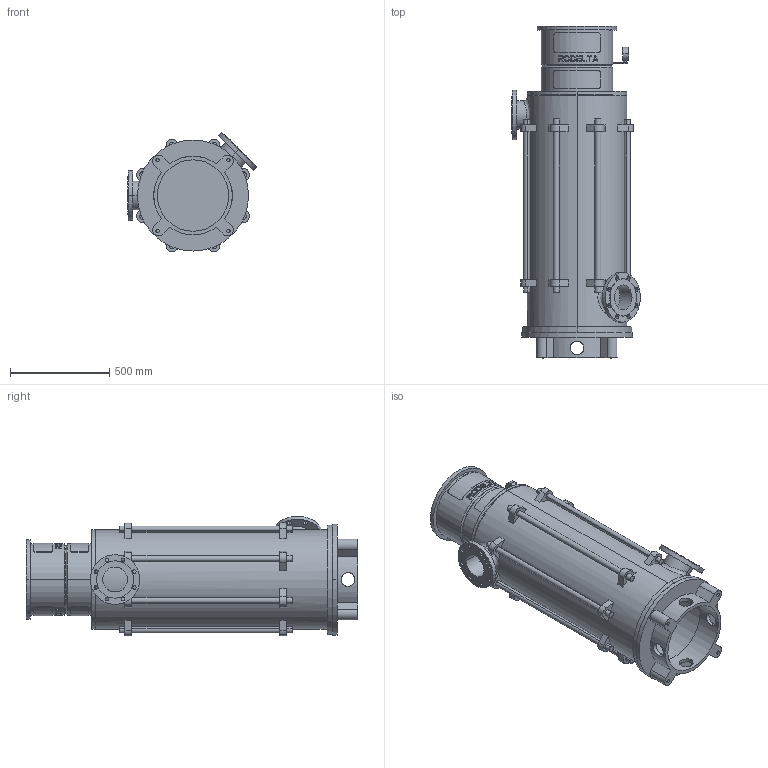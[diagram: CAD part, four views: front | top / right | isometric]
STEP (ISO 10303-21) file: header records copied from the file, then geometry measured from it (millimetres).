
FILE_DESCRIPTION((''),'2;1');
FILE_NAME('LS5_7TR_0GR_TOT_30KW','2023-08-08T',('Lyritlocal'),(''),'PRO/ENGINEER BY PARAMETRIC TECHNOLOGY CORPORATION, 2016360','PRO/ENGINEER BY PARAMETRIC TECHNOLOGY CORPORATION, 2016360','');
FILE_SCHEMA(('CONFIG_CONTROL_DESIGN'));
Length unit declared in the file: millimetre
Products named in the file (1): LS5_7TR_0GR_TOT_30KW
Bounding box: 649.61 x 1674 x 603.65 mm (x, y, z)
Volume: 45350489.3 mm3; surface area: 6810563.4 mm2
Topology: 3 solids, 7 shells, 672 faces, 1747 edges, 1158 vertices
Faces by surface type: plane 414, cylinder 242, cone 12, bspline 4
Entity records: 21888 total; most frequent: CARTESIAN_POINT 5444, ORIENTED_EDGE 3478, DIRECTION 3269, EDGE_CURVE 1747, AXIS2_PLACEMENT_3D 1241, VERTEX_POINT 1158, EDGE_LOOP 809, VECTOR 787
